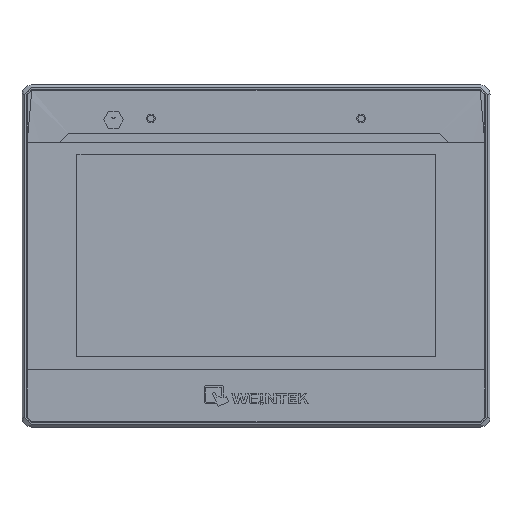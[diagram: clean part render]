
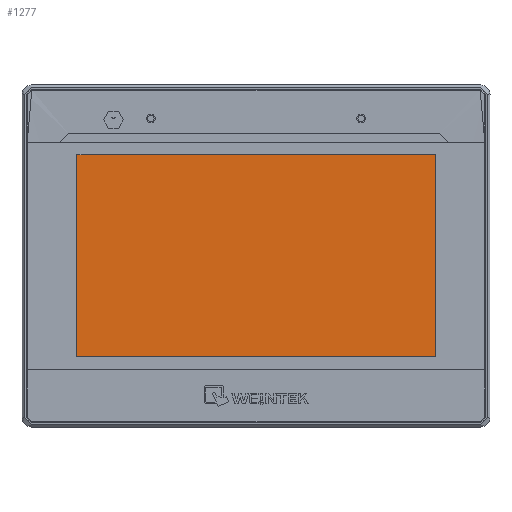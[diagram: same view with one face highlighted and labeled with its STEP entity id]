
A CAD part, top view. The second image highlights one B-rep face of the part: STEP entity #1277.
In plain terms, the highlighted planar face has unit normal (0, 0, 1).
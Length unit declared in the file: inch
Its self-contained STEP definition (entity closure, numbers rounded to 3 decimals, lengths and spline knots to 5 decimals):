
#1277 = ADVANCED_FACE ( 'NONE', ( #34627 ), #2730, .T. ) ;
#1553 = ORIENTED_EDGE ( 'NONE', *, *, #21993, .T. ) ;
#2730 = PLANE ( 'NONE',  #35899 ) ;
#4718 = CARTESIAN_POINT ( 'NONE',  ( 0., 1.70984, 8.00472 ) ) ;
#4860 = CARTESIAN_POINT ( 'NONE',  ( 3.0315, 1.70984, 8.00492 ) ) ;
#4977 = B_SPLINE_CURVE_WITH_KNOTS ( 'NONE', 3,
 ( #8344, #22538, #36744, #4860 ),
 .UNSPECIFIED., .F., .F.,
 ( 4, 4 ),
 ( 0., 1. ),
 .UNSPECIFIED. ) ;
#6692 = CARTESIAN_POINT ( 'NONE',  ( 0., 0., 8.00472 ) ) ;
#7370 = ORIENTED_EDGE ( 'NONE', *, *, #19715, .T. ) ;
#7389 = LINE ( 'NONE', #21584, #28354 ) ;
#7695 = EDGE_CURVE ( 'NONE', #15822, #20562, #4977, .T. ) ;
#7960 = CARTESIAN_POINT ( 'NONE',  ( -3.01772, 1.70984, 8.00492 ) ) ;
#8344 = CARTESIAN_POINT ( 'NONE',  ( 3.0315, -1.70039, 8.00492 ) ) ;
#9668 = CARTESIAN_POINT ( 'NONE',  ( -3.01772, -1.70039, 8.00492 ) ) ;
#13088 = VERTEX_POINT ( 'NONE', #32570 ) ;
#13149 = CARTESIAN_POINT ( 'NONE',  ( -3.01772, 1.70984, 8.00492 ) ) ;
#15215 = EDGE_LOOP ( 'NONE', ( #42868, #1553, #39284, #7370 ) ) ;
#15822 = VERTEX_POINT ( 'NONE', #43663 ) ;
#18898 = DIRECTION ( 'NONE',  ( -1., 0., 0. ) ) ;
#19715 = EDGE_CURVE ( 'NONE', #20562, #42042, #25886, .T. ) ;
#19716 = B_SPLINE_CURVE_WITH_KNOTS ( 'NONE', 3,
 ( #13149, #27347, #41530, #9668 ),
 .UNSPECIFIED., .F., .F.,
 ( 4, 4 ),
 ( 0., 1. ),
 .UNSPECIFIED. ) ;
#20562 = VERTEX_POINT ( 'NONE', #40977 ) ;
#20872 = DIRECTION ( 'NONE',  ( 0., 0., 1. ) ) ;
#21584 = CARTESIAN_POINT ( 'NONE',  ( 0., -1.70039, 8.00472 ) ) ;
#21993 = EDGE_CURVE ( 'NONE', #13088, #15822, #7389, .T. ) ;
#22538 = CARTESIAN_POINT ( 'NONE',  ( 3.0315, -0.56365, 8.00472 ) ) ;
#25886 = LINE ( 'NONE', #4718, #38890 ) ;
#27347 = CARTESIAN_POINT ( 'NONE',  ( -3.01772, 0.5731, 8.00472 ) ) ;
#28354 = VECTOR ( 'NONE', #35798, 39.37008 ) ;
#32570 = CARTESIAN_POINT ( 'NONE',  ( -3.01772, -1.70039, 8.00492 ) ) ;
#34627 = FACE_OUTER_BOUND ( 'NONE', #15215, .T. ) ;
#35091 = DIRECTION ( 'NONE',  ( 0., -1., 0. ) ) ;
#35798 = DIRECTION ( 'NONE',  ( 1., 0., 0. ) ) ;
#35899 = AXIS2_PLACEMENT_3D ( 'NONE', #6692, #20872, #35091 ) ;
#36744 = CARTESIAN_POINT ( 'NONE',  ( 3.0315, 0.5731, 8.00472 ) ) ;
#37340 = EDGE_CURVE ( 'NONE', #42042, #13088, #19716, .T. ) ;
#38890 = VECTOR ( 'NONE', #18898, 39.37008 ) ;
#39284 = ORIENTED_EDGE ( 'NONE', *, *, #7695, .T. ) ;
#40977 = CARTESIAN_POINT ( 'NONE',  ( 3.0315, 1.70984, 8.00492 ) ) ;
#41530 = CARTESIAN_POINT ( 'NONE',  ( -3.01772, -0.56365, 8.00472 ) ) ;
#42042 = VERTEX_POINT ( 'NONE', #7960 ) ;
#42868 = ORIENTED_EDGE ( 'NONE', *, *, #37340, .T. ) ;
#43663 = CARTESIAN_POINT ( 'NONE',  ( 3.0315, -1.70039, 8.00492 ) ) ;
